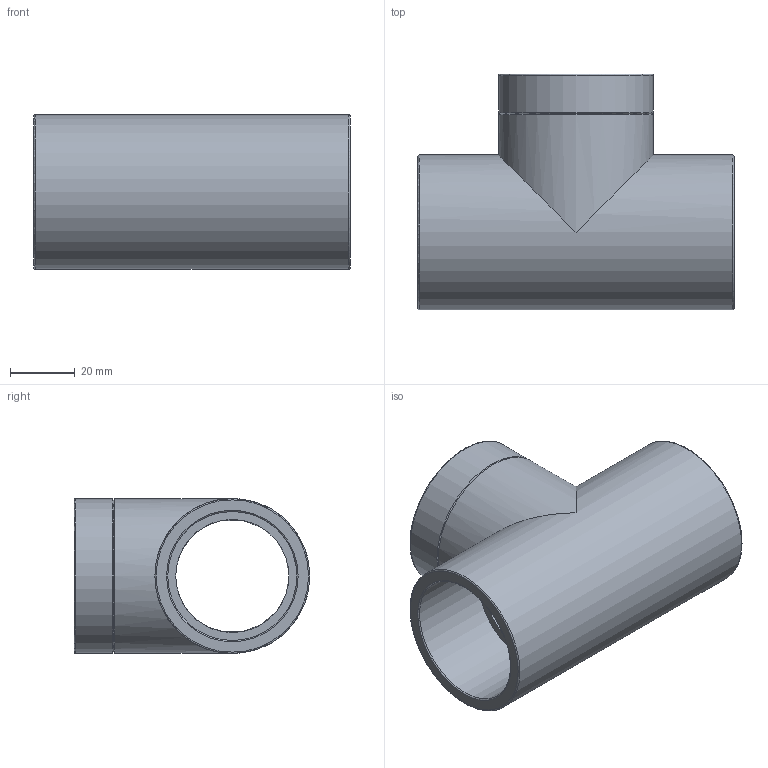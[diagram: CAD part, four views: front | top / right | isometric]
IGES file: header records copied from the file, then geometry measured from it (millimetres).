
Global section: file name: 050402040013.ipt; native system: Autodesk Inventor 2015; preprocessor: unknown; author: KIM; date: 20171207.165849; units: millimetre
Bounding box: 98 x 73 x 48 mm (x, y, z)
Volume: 81436.8 mm3; surface area: 34874.3 mm2
Topology: 1 solids, 1 shells, 21 faces, 59 edges, 43 vertices
Faces by surface type: revolution 10, plane 6, cylinder 3, cone 2
Full cylindrical faces by diameter (mm): 48 x3
